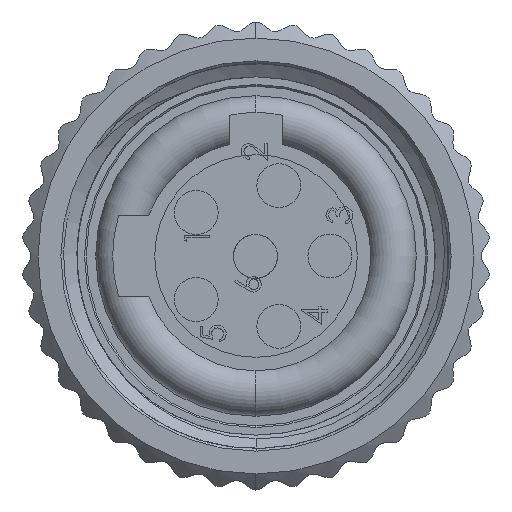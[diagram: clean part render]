
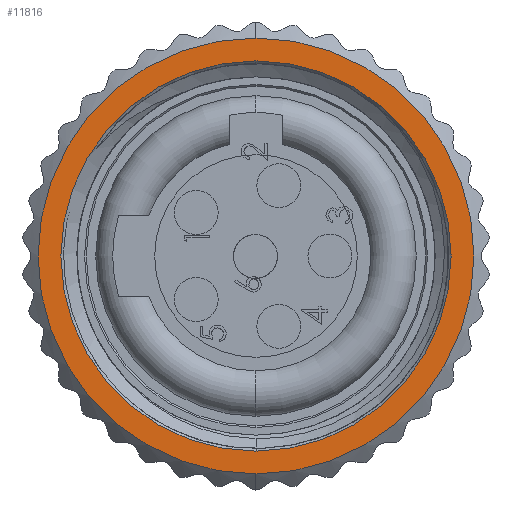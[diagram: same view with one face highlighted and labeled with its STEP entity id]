
A CAD part, left-side view. The second image highlights one B-rep face of the part: STEP entity #11816.
In plain terms, the highlighted planar face has unit normal (-1, 0, 0).
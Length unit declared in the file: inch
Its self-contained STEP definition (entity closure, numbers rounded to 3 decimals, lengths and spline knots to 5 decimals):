
#1415 = CIRCLE ( 'NONE', #4036, 0.26772 ) ;
#2455 = CARTESIAN_POINT ( 'NONE',  ( 0.02972, 0., 0.26772 ) ) ;
#2581 = VERTEX_POINT ( 'NONE', #12168 ) ;
#3989 = DIRECTION ( 'NONE',  ( -1., 0., 0. ) ) ;
#4036 = AXIS2_PLACEMENT_3D ( 'NONE', #42742, #20855, #46415 ) ;
#4366 = VERTEX_POINT ( 'NONE', #25857 ) ;
#4872 = ORIENTED_EDGE ( 'NONE', *, *, #5000, .T. ) ;
#5000 = EDGE_CURVE ( 'NONE', #25979, #42776, #1415, .T. ) ;
#6151 = CARTESIAN_POINT ( 'NONE',  ( 0.02972, 0., 0. ) ) ;
#6344 = DIRECTION ( 'NONE',  ( 1., 0., 0. ) ) ;
#6849 = AXIS2_PLACEMENT_3D ( 'NONE', #6151, #31728, #9787 ) ;
#8642 = DIRECTION ( 'NONE',  ( -1., 0., 0. ) ) ;
#9787 = DIRECTION ( 'NONE',  ( 0., 0., 1. ) ) ;
#11816 = ADVANCED_FACE ( 'NONE', ( #17436, #46642 ), #24438, .F. ) ;
#12168 = CARTESIAN_POINT ( 'NONE',  ( 0.02972, 0., -0.23969 ) ) ;
#14996 = AXIS2_PLACEMENT_3D ( 'NONE', #25926, #3989, #29596 ) ;
#17436 = FACE_BOUND ( 'NONE', #42729, .T. ) ;
#19240 = ORIENTED_EDGE ( 'NONE', *, *, #34556, .T. ) ;
#20855 = DIRECTION ( 'NONE',  ( -1., 0., 0. ) ) ;
#22175 = AXIS2_PLACEMENT_3D ( 'NONE', #30621, #8642, #34251 ) ;
#22445 = CIRCLE ( 'NONE', #6849, 0.23969 ) ;
#24438 = PLANE ( 'NONE',  #29024 ) ;
#25857 = CARTESIAN_POINT ( 'NONE',  ( 0.02972, 0., 0.23969 ) ) ;
#25926 = CARTESIAN_POINT ( 'NONE',  ( 0.02972, 0., 0. ) ) ;
#25979 = VERTEX_POINT ( 'NONE', #36807 ) ;
#28264 = CARTESIAN_POINT ( 'NONE',  ( 0.02972, 0.23969, 0. ) ) ;
#29024 = AXIS2_PLACEMENT_3D ( 'NONE', #28264, #6344, #31932 ) ;
#29596 = DIRECTION ( 'NONE',  ( 0., 0., 1. ) ) ;
#30621 = CARTESIAN_POINT ( 'NONE',  ( 0.02972, 0., 0. ) ) ;
#31728 = DIRECTION ( 'NONE',  ( -1., 0., 0. ) ) ;
#31932 = DIRECTION ( 'NONE',  ( 0., 0., -1. ) ) ;
#34251 = DIRECTION ( 'NONE',  ( 0., 0., 1. ) ) ;
#34556 = EDGE_CURVE ( 'NONE', #42776, #25979, #41583, .T. ) ;
#36271 = ORIENTED_EDGE ( 'NONE', *, *, #40756, .F. ) ;
#36807 = CARTESIAN_POINT ( 'NONE',  ( 0.02972, 0., -0.26772 ) ) ;
#38103 = ORIENTED_EDGE ( 'NONE', *, *, #41100, .F. ) ;
#40756 = EDGE_CURVE ( 'NONE', #4366, #2581, #22445, .T. ) ;
#41100 = EDGE_CURVE ( 'NONE', #2581, #4366, #41793, .T. ) ;
#41583 = CIRCLE ( 'NONE', #14996, 0.26772 ) ;
#41793 = CIRCLE ( 'NONE', #22175, 0.23969 ) ;
#42729 = EDGE_LOOP ( 'NONE', ( #36271, #38103 ) ) ;
#42742 = CARTESIAN_POINT ( 'NONE',  ( 0.02972, 0., 0. ) ) ;
#42776 = VERTEX_POINT ( 'NONE', #2455 ) ;
#43996 = EDGE_LOOP ( 'NONE', ( #4872, #19240 ) ) ;
#46415 = DIRECTION ( 'NONE',  ( 0., 0., 1. ) ) ;
#46642 = FACE_OUTER_BOUND ( 'NONE', #43996, .T. ) ;
